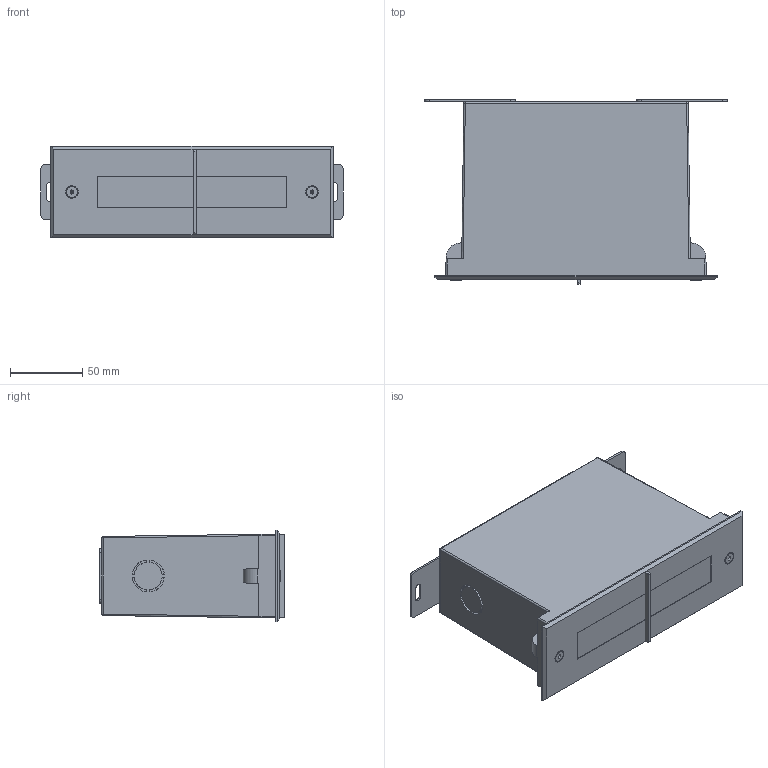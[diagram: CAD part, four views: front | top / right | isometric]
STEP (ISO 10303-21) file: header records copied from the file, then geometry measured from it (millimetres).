
FILE_DESCRIPTION((''),'2;1');
FILE_NAME('C1FL0357_ASM','2020-07-14T',('Administrator'),(''),'PRO/ENGINEER BY PARAMETRIC TECHNOLOGY CORPORATION, 2014000','PRO/ENGINEER BY PARAMETRIC TECHNOLOGY CORPORATION, 2014000','');
FILE_SCHEMA(('CONFIG_CONTROL_DESIGN'));
Products named in the file (21): CROSS_RECESSED_COUNTERSUN-25566; C11____; CROSS_RECESSED_COUNTERSUNK-1341; 2BL-A____-25166; 2BL03______; 2BL-A; HEXAGON_SOCKET_COUNTERSUNK_HEAD; ____5_D1BL1014; PGB9______; SCREW-M12_1; 2FL-A______-1437; 2FL-A__________; 2FL-A________; 2FL-A______-25806_ASM; AL-2AL______; 2BL-A____-47537; 2FL-NEW-SLEEVE; GUDINGZHIJIA-4QA; CHAPIAN-00; NEW-SLEEVE_ASM; C1FL0357_ASM
Assembly tree (33 placements, depth 3):
  C1FL0357_ASM
    CROSS_RECESSED_COUNTERSUN-25566  x6
    C11____  x3
    CROSS_RECESSED_COUNTERSUNK-1341  x4
    2BL-A____-25166
    2BL03______
    2BL-A
    HEXAGON_SOCKET_COUNTERSUNK_HEAD  x2
    ____5_D1BL1014
    PGB9______
    2FL-A______-25806_ASM
      SCREW-M12_1  x2
      2FL-A______-1437
      2FL-A__________
      2FL-A________
    AL-2AL______
    2BL-A____-47537
    NEW-SLEEVE_ASM
      2FL-NEW-SLEEVE
      GUDINGZHIJIA-4QA  x2
      CHAPIAN-00
Bounding box: 209 x 127.5 x 63 mm (x, y, z)
Volume: 316614.5 mm3; surface area: 290730.9 mm2
Topology: 31 solids, 31 shells, 2827 faces, 7457 edges, 4829 vertices
Faces by surface type: plane 1870, cylinder 579, cone 204, extrusion 114, bspline 29, sphere 21, torus 10
Entity records: 69857 total; most frequent: CARTESIAN_POINT 19936, ORIENTED_EDGE 10460, DIRECTION 9740, EDGE_CURVE 5230, VECTOR 3846, LINE 3732, VERTEX_POINT 3398, AXIS2_PLACEMENT_3D 2947
